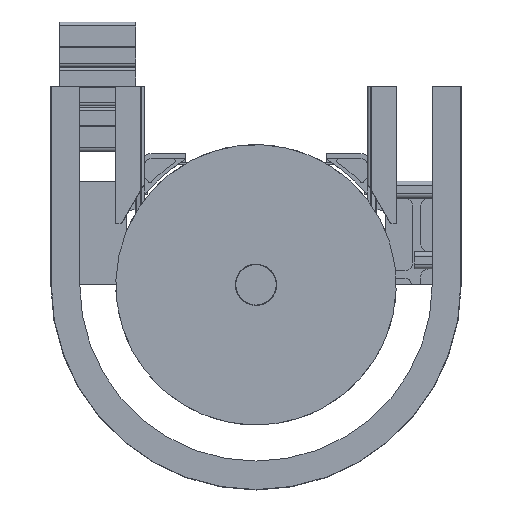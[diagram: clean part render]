
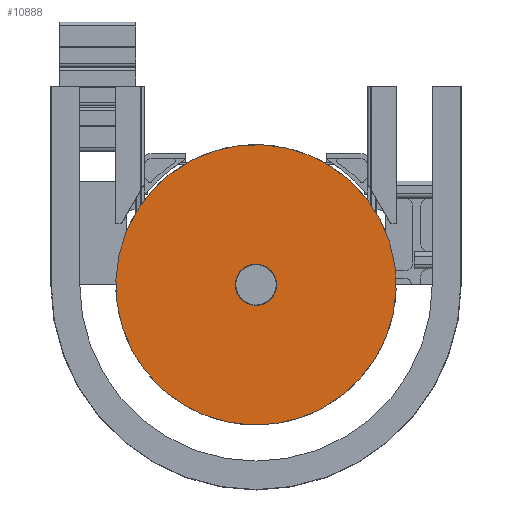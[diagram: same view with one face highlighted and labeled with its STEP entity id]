
A CAD part, front view. The second image highlights one B-rep face of the part: STEP entity #10888.
In plain terms, the highlighted planar face has unit normal (0, -1, 0).
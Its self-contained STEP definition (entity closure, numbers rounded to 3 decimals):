
#3072 = CARTESIAN_POINT ( 'NONE',  ( 68.915, -67.5, -131.064 ) ) ;
#3090 = CARTESIAN_POINT ( 'NONE',  ( 180.745, -67.5, -232.529 ) ) ;
#6982 = VERTEX_POINT ( 'NONE', #45154 ) ;
#6995 = VERTEX_POINT ( 'NONE', #45176 ) ;
#10888 = ADVANCED_FACE ( 'NONE', ( #30638, #30639 ), #27386, .T. ) ;
#17070 = EDGE_CURVE ( 'NONE', #6982, #27176, #44458, .T. ) ;
#17071 = EDGE_CURVE ( 'NONE', #27176, #6982, #44459, .T. ) ;
#17072 = EDGE_CURVE ( 'NONE', #6995, #27158, #44461, .T. ) ;
#17074 = EDGE_CURVE ( 'NONE', #27158, #6995, #44464, .T. ) ;
#21634 = EDGE_LOOP ( 'NONE', ( #33746, #33745 ) ) ;
#21640 = EDGE_LOOP ( 'NONE', ( #33744, #33743 ) ) ;
#27158 = VERTEX_POINT ( 'NONE', #3072 ) ;
#27176 = VERTEX_POINT ( 'NONE', #3090 ) ;
#27386 = PLANE ( 'NONE',  #38269 ) ;
#27387 = CARTESIAN_POINT ( 'NONE',  ( 180.745, -67.5, -232.529 ) ) ;
#27388 = DIRECTION ( 'NONE',  ( 0., -1., 0. ) ) ;
#27389 = DIRECTION ( 'NONE',  ( -0.741, 0., 0.672 ) ) ;
#27443 = CARTESIAN_POINT ( 'NONE',  ( 200., -67.5, -250. ) ) ;
#27444 = DIRECTION ( 'NONE',  ( 0., -1., 0. ) ) ;
#27445 = DIRECTION ( 'NONE',  ( -0.741, 0., 0.672 ) ) ;
#27446 = CARTESIAN_POINT ( 'NONE',  ( 200., -67.5, -250. ) ) ;
#27447 = DIRECTION ( 'NONE',  ( 0., -1., 0. ) ) ;
#27448 = DIRECTION ( 'NONE',  ( -0.741, 0., 0.672 ) ) ;
#27449 = CARTESIAN_POINT ( 'NONE',  ( 200., -67.5, -250. ) ) ;
#27450 = DIRECTION ( 'NONE',  ( 0., -1., 0. ) ) ;
#27451 = DIRECTION ( 'NONE',  ( -0.741, 0., 0.672 ) ) ;
#27454 = CARTESIAN_POINT ( 'NONE',  ( 200., -67.5, -250. ) ) ;
#27455 = DIRECTION ( 'NONE',  ( 0., -1., 0. ) ) ;
#27456 = DIRECTION ( 'NONE',  ( -0.741, 0., 0.672 ) ) ;
#30638 = FACE_OUTER_BOUND ( 'NONE', #21634, .T. ) ;
#30639 = FACE_BOUND ( 'NONE', #21640, .T. ) ;
#33743 = ORIENTED_EDGE ( 'NONE', *, *, #17070, .F. ) ;
#33744 = ORIENTED_EDGE ( 'NONE', *, *, #17071, .F. ) ;
#33745 = ORIENTED_EDGE ( 'NONE', *, *, #17072, .T. ) ;
#33746 = ORIENTED_EDGE ( 'NONE', *, *, #17074, .T. ) ;
#38269 = AXIS2_PLACEMENT_3D ( 'NONE', #27387, #27388, #27389 ) ;
#38286 = AXIS2_PLACEMENT_3D ( 'NONE', #27443, #27444, #27445 ) ;
#38287 = AXIS2_PLACEMENT_3D ( 'NONE', #27446, #27447, #27448 ) ;
#38288 = AXIS2_PLACEMENT_3D ( 'NONE', #27449, #27450, #27451 ) ;
#38289 = AXIS2_PLACEMENT_3D ( 'NONE', #27454, #27455, #27456 ) ;
#44458 = CIRCLE ( 'NONE', #38286, 26. ) ;
#44459 = CIRCLE ( 'NONE', #38287, 26. ) ;
#44461 = CIRCLE ( 'NONE', #38288, 177. ) ;
#44464 = CIRCLE ( 'NONE', #38289, 177. ) ;
#45154 = CARTESIAN_POINT ( 'NONE',  ( 219.255, -67.5, -267.471 ) ) ;
#45176 = CARTESIAN_POINT ( 'NONE',  ( 331.085, -67.5, -368.936 ) ) ;
